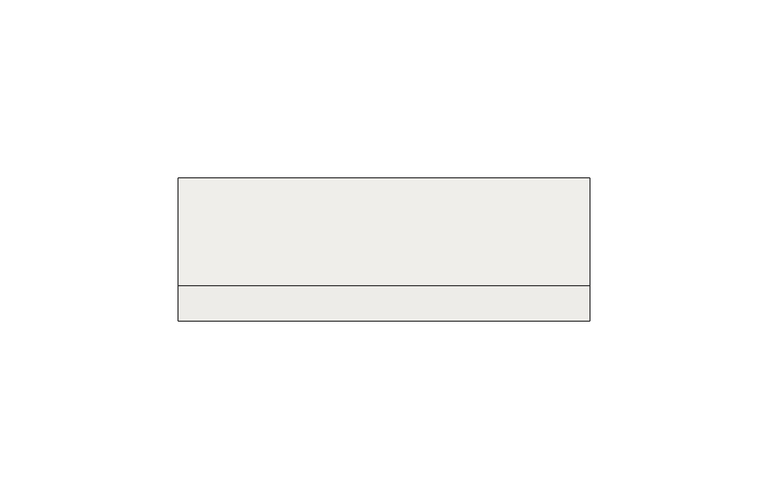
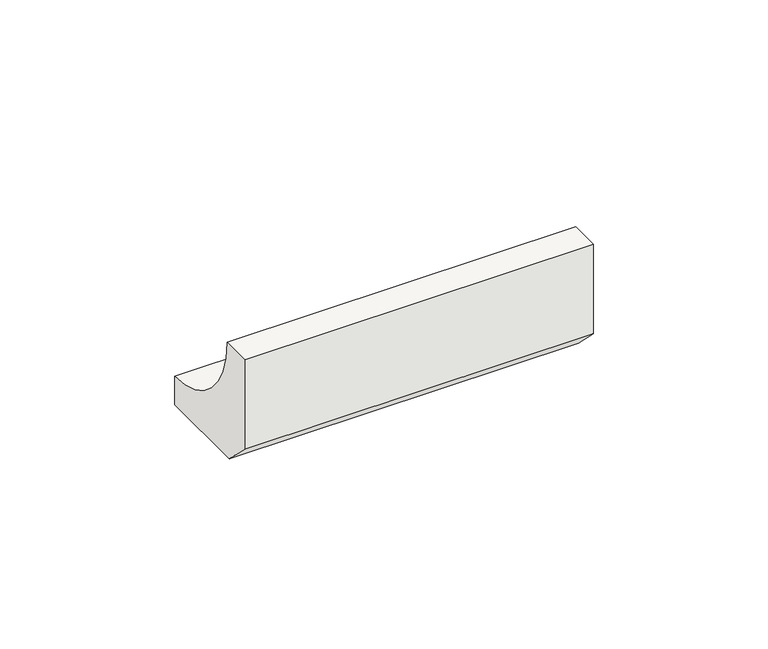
"""IFC4 building model written with IfcOpenShell, lengths in millimetres: slab geometry, ROSA GRES_112 : Pieza 112_Aqua_Marino_Liso."""

from ifc_helpers import new_model, si_unit, point, frame, frame_2d, origin, place, context, project, spatial, polyline, circle_curve, trimmed, segment, composite_curve, outline, extrude, source, transform, mapped, element, save


def slab_672f7bec(model_context):
    return source(origin(), model_context, "Body", "SweptSolid", [
        extrude(outline(composite_curve([segment(polyline([(0.0, 8.7114978), (0.0, 40.0), (9.9734114, 40.0)]), True, "CONTINUOUS"), segment(trimmed(circle_curve(frame_2d((39.9955547, 39.9955547)), 30.0221435), [point((9.9734114, 40.0))], [point((40.0, 9.9734114))], True, "CARTESIAN"), True, "CONTINUOUS"), segment(polyline([(40.0, 9.9734114), (40.0, 0.0), (8.7114978, 0.0), (0.0, 8.7114978)]), True, "CONTINUOUS")], self_intersect=False)), frame((0.0, 0.0, 0.0), z_axis=(1.0, 0.0, 0.0), x_axis=(0.0, 1.0, 0.0)), (0.0, 0.0, 1.0), 115.2667933),
    ])


if __name__ == "__main__":
    model = new_model("IFC4")
    model_context = context("Model", 3, world=origin())
    ifc_project = project(units=[si_unit("LENGTHUNIT", "METRE", prefix="MILLI")], contexts=[model_context])
    site = spatial("IfcSite", under=ifc_project)
    building = spatial("IfcBuilding", under=site)
    placement = place(None, origin())
    slab_shape = slab_672f7bec(model_context)
    element("IfcSlab", 1, ObjectType="ROSA GRES_112 : Pieza 112_Aqua_Marino_Liso", at=placement, inside=building, context=model_context, shape_type="MappedRepresentation", body=[
        mapped(slab_shape, transform((0.0, 0.0, 0.0), x_axis=(1.0, 0.0, 0.0), y_axis=(0.0, 1.0, 0.0), z_axis=(0.0, 0.0, 1.0))),
    ])
    save(model, "model.ifc")
